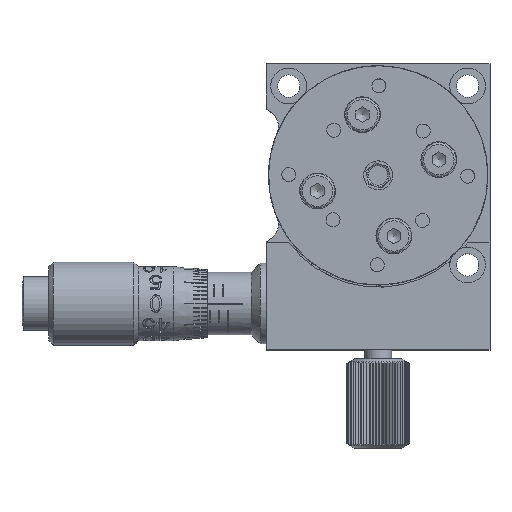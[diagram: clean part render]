
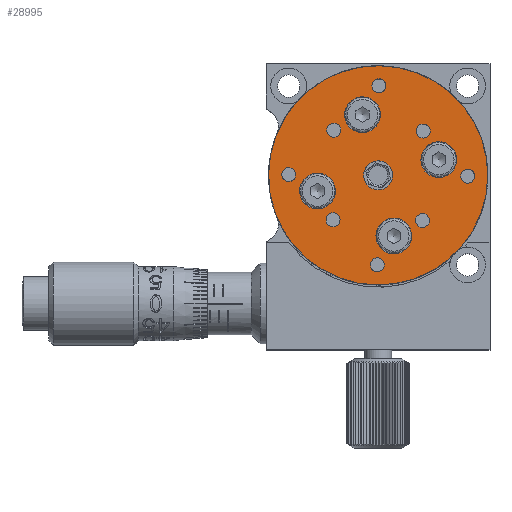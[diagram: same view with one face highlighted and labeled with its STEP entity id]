
A CAD part, top view. The second image highlights one B-rep face of the part: STEP entity #28995.
In plain terms, the highlighted planar face has unit normal (0, 0, 1).
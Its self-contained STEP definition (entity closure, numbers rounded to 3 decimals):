
#6708=PLANE($,#30861);
#7546=FACE_BOUND($,#9609,.T.);
#7547=FACE_BOUND($,#9610,.T.);
#7548=FACE_BOUND($,#9611,.T.);
#7549=FACE_BOUND($,#9612,.T.);
#7550=FACE_BOUND($,#9613,.T.);
#7551=FACE_BOUND($,#9614,.T.);
#7552=FACE_BOUND($,#9615,.T.);
#7553=FACE_BOUND($,#9616,.T.);
#7554=FACE_BOUND($,#9617,.T.);
#7555=FACE_BOUND($,#9618,.T.);
#7556=FACE_BOUND($,#9619,.T.);
#7557=FACE_BOUND($,#9620,.T.);
#7558=FACE_BOUND($,#9621,.T.);
#7559=FACE_BOUND($,#9622,.T.);
#9609=EDGE_LOOP($,(#20512));
#9610=EDGE_LOOP($,(#20513));
#9611=EDGE_LOOP($,(#20514));
#9612=EDGE_LOOP($,(#20515));
#9613=EDGE_LOOP($,(#20516));
#9614=EDGE_LOOP($,(#20517));
#9615=EDGE_LOOP($,(#20518));
#9616=EDGE_LOOP($,(#20519));
#9617=EDGE_LOOP($,(#20520));
#9618=EDGE_LOOP($,(#20521));
#9619=EDGE_LOOP($,(#20522));
#9620=EDGE_LOOP($,(#20523));
#9621=EDGE_LOOP($,(#20524));
#9622=EDGE_LOOP($,(#20525));
#11386=CIRCLE($,#30862,2.);
#11387=CIRCLE($,#30863,2.);
#11388=CIRCLE($,#30864,2.);
#11389=CIRCLE($,#30865,2.);
#11390=CIRCLE($,#30866,0.784);
#11391=CIRCLE($,#30867,0.784);
#11392=CIRCLE($,#30868,0.784);
#11393=CIRCLE($,#30869,0.784);
#11394=CIRCLE($,#30870,0.784);
#11395=CIRCLE($,#30871,0.784);
#11396=CIRCLE($,#30872,0.784);
#11397=CIRCLE($,#30873,0.784);
#11398=CIRCLE($,#30874,1.621);
#11399=CIRCLE($,#30875,12.25);
#12543=VERTEX_POINT($,#42844);
#12544=VERTEX_POINT($,#42846);
#12545=VERTEX_POINT($,#42848);
#12546=VERTEX_POINT($,#42850);
#12547=VERTEX_POINT($,#42852);
#12548=VERTEX_POINT($,#42854);
#12549=VERTEX_POINT($,#42856);
#12550=VERTEX_POINT($,#42858);
#12551=VERTEX_POINT($,#42860);
#12552=VERTEX_POINT($,#42862);
#12553=VERTEX_POINT($,#42864);
#12554=VERTEX_POINT($,#42866);
#12555=VERTEX_POINT($,#42868);
#12556=VERTEX_POINT($,#42870);
#15659=EDGE_CURVE($,#12543,#12543,#11386,.T.);
#15660=EDGE_CURVE($,#12544,#12544,#11387,.T.);
#15661=EDGE_CURVE($,#12545,#12545,#11388,.T.);
#15662=EDGE_CURVE($,#12546,#12546,#11389,.T.);
#15663=EDGE_CURVE($,#12547,#12547,#11390,.T.);
#15664=EDGE_CURVE($,#12548,#12548,#11391,.T.);
#15665=EDGE_CURVE($,#12549,#12549,#11392,.T.);
#15666=EDGE_CURVE($,#12550,#12550,#11393,.T.);
#15667=EDGE_CURVE($,#12551,#12551,#11394,.T.);
#15668=EDGE_CURVE($,#12552,#12552,#11395,.T.);
#15669=EDGE_CURVE($,#12553,#12553,#11396,.T.);
#15670=EDGE_CURVE($,#12554,#12554,#11397,.T.);
#15671=EDGE_CURVE($,#12555,#12555,#11398,.T.);
#15672=EDGE_CURVE($,#12556,#12556,#11399,.T.);
#20512=ORIENTED_EDGE($,*,*,#15659,.T.);
#20513=ORIENTED_EDGE($,*,*,#15660,.T.);
#20514=ORIENTED_EDGE($,*,*,#15661,.T.);
#20515=ORIENTED_EDGE($,*,*,#15662,.T.);
#20516=ORIENTED_EDGE($,*,*,#15663,.T.);
#20517=ORIENTED_EDGE($,*,*,#15664,.T.);
#20518=ORIENTED_EDGE($,*,*,#15665,.T.);
#20519=ORIENTED_EDGE($,*,*,#15666,.T.);
#20520=ORIENTED_EDGE($,*,*,#15667,.T.);
#20521=ORIENTED_EDGE($,*,*,#15668,.T.);
#20522=ORIENTED_EDGE($,*,*,#15669,.T.);
#20523=ORIENTED_EDGE($,*,*,#15670,.T.);
#20524=ORIENTED_EDGE($,*,*,#15671,.T.);
#20525=ORIENTED_EDGE($,*,*,#15672,.T.);
#28995=ADVANCED_FACE($,(#7546,#7547,#7548,#7549,#7550,#7551,#7552,#7553,
#7554,#7555,#7556,#7557,#7558,#7559),#6708,.F.);
#30861=AXIS2_PLACEMENT_3D($,#42843,#33724,#33725);
#30862=AXIS2_PLACEMENT_3D($,#42845,#33726,#33727);
#30863=AXIS2_PLACEMENT_3D($,#42847,#33728,#33729);
#30864=AXIS2_PLACEMENT_3D($,#42849,#33730,#33731);
#30865=AXIS2_PLACEMENT_3D($,#42851,#33732,#33733);
#30866=AXIS2_PLACEMENT_3D($,#42853,#33734,#33735);
#30867=AXIS2_PLACEMENT_3D($,#42855,#33736,#33737);
#30868=AXIS2_PLACEMENT_3D($,#42857,#33738,#33739);
#30869=AXIS2_PLACEMENT_3D($,#42859,#33740,#33741);
#30870=AXIS2_PLACEMENT_3D($,#42861,#33742,#33743);
#30871=AXIS2_PLACEMENT_3D($,#42863,#33744,#33745);
#30872=AXIS2_PLACEMENT_3D($,#42865,#33746,#33747);
#30873=AXIS2_PLACEMENT_3D($,#42867,#33748,#33749);
#30874=AXIS2_PLACEMENT_3D($,#42869,#33750,#33751);
#30875=AXIS2_PLACEMENT_3D($,#42871,#33752,#33753);
#33724=DIRECTION('center_axis',(0.,0.,
-1.));
#33725=DIRECTION('ref_axis',(1.,-0.009,0.));
#33726=DIRECTION('center_axis',(0.,0.,
-1.));
#33727=DIRECTION('ref_axis',(-1.,0.009,0.));
#33728=DIRECTION('center_axis',(0.,0.,
-1.));
#33729=DIRECTION('ref_axis',(-1.,0.009,0.));
#33730=DIRECTION('center_axis',(0.,0.,
-1.));
#33731=DIRECTION('ref_axis',(-1.,0.009,0.));
#33732=DIRECTION('center_axis',(0.,0.,
-1.));
#33733=DIRECTION('ref_axis',(-1.,0.009,0.));
#33734=DIRECTION('center_axis',(0.,0.,
-1.));
#33735=DIRECTION('ref_axis',(-1.,0.009,0.));
#33736=DIRECTION('center_axis',(0.,0.,
-1.));
#33737=DIRECTION('ref_axis',(-1.,0.009,0.));
#33738=DIRECTION('center_axis',(0.,0.,
-1.));
#33739=DIRECTION('ref_axis',(-1.,0.009,0.));
#33740=DIRECTION('center_axis',(0.,0.,
-1.));
#33741=DIRECTION('ref_axis',(-1.,0.009,0.));
#33742=DIRECTION('center_axis',(0.,0.,
-1.));
#33743=DIRECTION('ref_axis',(-1.,0.009,0.));
#33744=DIRECTION('center_axis',(0.,0.,
-1.));
#33745=DIRECTION('ref_axis',(-1.,0.009,0.));
#33746=DIRECTION('center_axis',(0.,0.,
-1.));
#33747=DIRECTION('ref_axis',(-1.,0.009,0.));
#33748=DIRECTION('center_axis',(0.,0.,
-1.));
#33749=DIRECTION('ref_axis',(-1.,0.009,0.));
#33750=DIRECTION('center_axis',(0.,0.,
-1.));
#33751=DIRECTION('ref_axis',(-1.,0.009,0.));
#33752=DIRECTION('center_axis',(0.,0.,
1.));
#33753=DIRECTION('ref_axis',(-1.,0.009,0.));
#42843=CARTESIAN_POINT('Origin',(-12.5,19.5,14.8));
#42844=CARTESIAN_POINT('',(-16.252,26.295,14.8));
#42845=CARTESIAN_POINT('Origin',(-14.252,26.277,14.8));
#42846=CARTESIAN_POINT('',(-12.748,12.74,14.8));
#42847=CARTESIAN_POINT('Origin',(-10.748,12.723,14.8));
#42848=CARTESIAN_POINT('',(-7.723,21.27,14.8));
#42849=CARTESIAN_POINT('Origin',(-5.723,21.252,14.8));
#42850=CARTESIAN_POINT('',(-21.277,17.765,14.8));
#42851=CARTESIAN_POINT('Origin',(-19.277,17.748,14.8));
#42852=CARTESIAN_POINT('',(-8.24,24.463,14.8));
#42853=CARTESIAN_POINT('Origin',(-7.456,24.456,14.8));
#42854=CARTESIAN_POINT('',(-18.327,14.551,14.8));
#42855=CARTESIAN_POINT('Origin',(-17.544,14.544,14.8));
#42856=CARTESIAN_POINT('',(-8.328,14.463,14.8));
#42857=CARTESIAN_POINT('Origin',(-7.544,14.456,14.8));
#42858=CARTESIAN_POINT('',(-18.239,24.551,14.8));
#42859=CARTESIAN_POINT('Origin',(-17.456,24.544,14.8));
#42860=CARTESIAN_POINT('',(-13.196,29.506,14.8));
#42861=CARTESIAN_POINT('Origin',(-12.412,29.5,14.8));
#42862=CARTESIAN_POINT('',(-13.371,9.507,14.8));
#42863=CARTESIAN_POINT('Origin',(-12.588,9.5,14.8));
#42864=CARTESIAN_POINT('',(-3.284,19.419,14.8));
#42865=CARTESIAN_POINT('Origin',(-2.5,19.412,14.8));
#42866=CARTESIAN_POINT('',(-23.283,19.595,14.8));
#42867=CARTESIAN_POINT('Origin',(-22.5,19.588,14.8));
#42868=CARTESIAN_POINT('',(-14.121,19.514,14.8));
#42869=CARTESIAN_POINT('Origin',(-12.5,19.5,14.8));
#42870=CARTESIAN_POINT('',(-0.25,19.392,14.8));
#42871=CARTESIAN_POINT('Origin',(-12.5,19.5,14.8));
